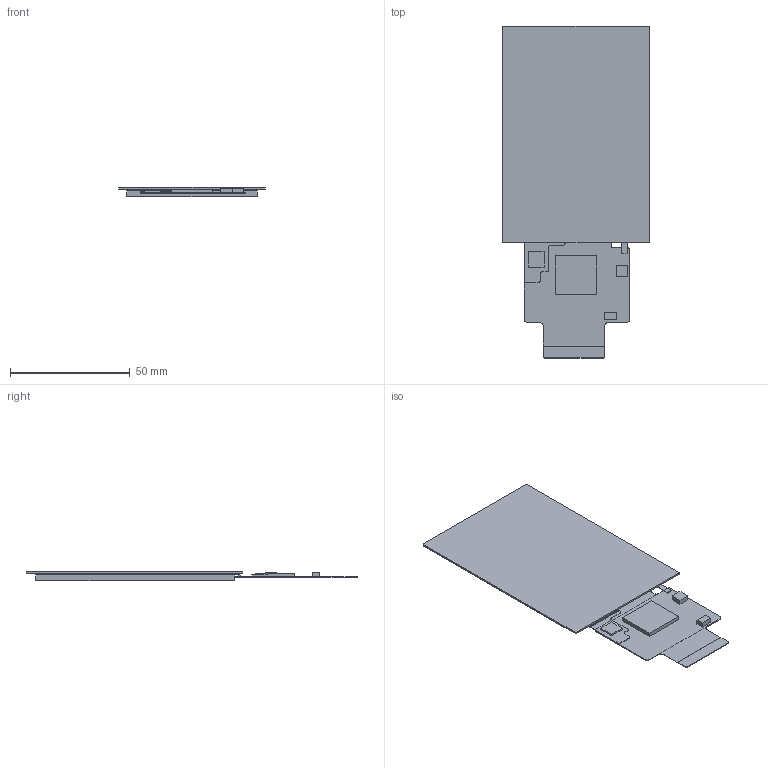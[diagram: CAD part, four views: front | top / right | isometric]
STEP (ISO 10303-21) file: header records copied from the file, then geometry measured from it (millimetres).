
FILE_DESCRIPTION((''),'2;1');
FILE_NAME('3D-DMG48320F035-01WTC-211206','2021-12-06T',('Administrator'),(''),'PRO/ENGINEER BY PARAMETRIC TECHNOLOGY CORPORATION, 2008380','PRO/ENGINEER BY PARAMETRIC TECHNOLOGY CORPORATION, 2008380','');
FILE_SCHEMA(('CONFIG_CONTROL_DESIGN'));
Length unit declared in the file: millimetre
Products named in the file (1): 3D-DMG48320F035-01WTC-211206
Bounding box: 61.3 x 138.54 x 3.8 mm (x, y, z)
Volume: 19245.8 mm3; surface area: 16536.2 mm2
Topology: 1 solids, 1 shells, 123 faces, 1754 edges, 2068 vertices
Faces by surface type: plane 93, cylinder 30
Entity records: 12308 total; most frequent: CARTESIAN_POINT 2135, DIRECTION 2077, VECTOR 1671, LINE 1671, TRIMMED_CURVE 1398, COMPOSITE_CURVE_SEGMENT 965, ORIENTED_EDGE 712, EDGE_CURVE 356
